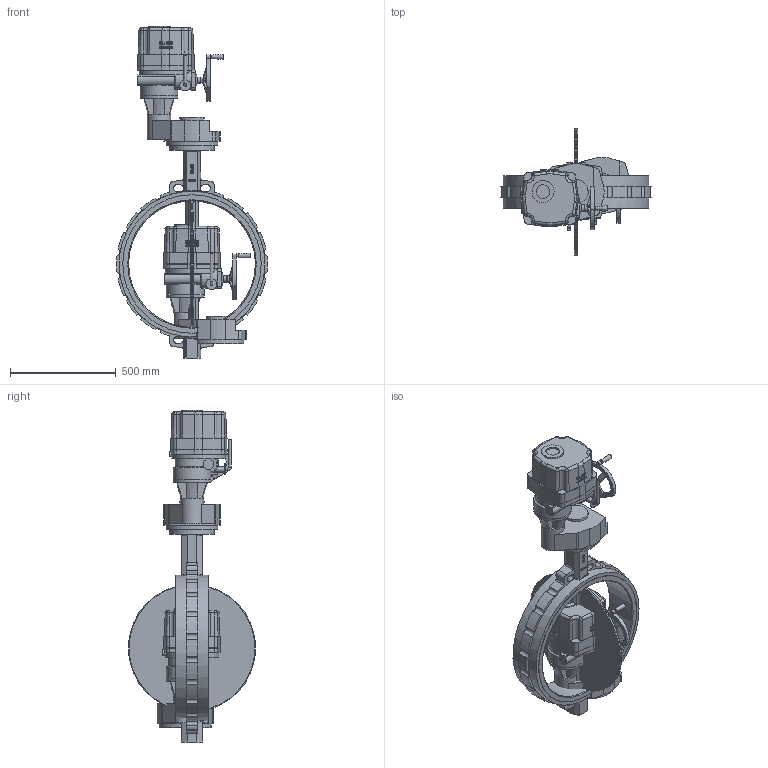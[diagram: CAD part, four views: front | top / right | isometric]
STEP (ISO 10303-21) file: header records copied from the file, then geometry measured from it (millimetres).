
FILE_DESCRIPTION( ( 'Unknown' ), '1' );
FILE_NAME( 'R:/ECCUA/ROOTSI BPS 3D vidinad/Poordklapid Wafer type/Butterfly valve(wafer) with electric actuator BPS/STEP formaat/BPS 2303600E butterfly valve DN600.stp', 'Unknown', ( 'Unknown' ), ( 'Unknown' ), 'PSStep 10.1', 'Unknown', ' ' );
FILE_SCHEMA( ( 'AUTOMOTIVE_DESIGN { 1 0 10303 214 1 1 1 1 }' ) );
Length unit declared in the file: millimetre
Products named in the file (4): Assem1; Butterfly valve wafer type DN600 BPS; BPS 80052000-3000 electric actuator DN450-600
Bounding box: 713.46 x 599.9 x 1571.5 mm (x, y, z)
Volume: 98336713.8 mm3; surface area: 5294564 mm2
Topology: 6 solids, 6 shells, 1300 faces, 3410 edges, 2212 vertices
Faces by surface type: plane 498, cylinder 412, bspline 150, cone 116, extrusion 78, torus 30, sphere 16
Full cylindrical faces by diameter (mm): 10.106 x16, 13 x4, 13.835 x16, 15 x2, 17.294 x16, 18 x10, 22 x8, 25 x4, 27 x4, 30 x4, 45 x2, 52 x2, 64 x2, 65 x2, 104 x2, 109.808 x2, 115 x2, 159 x2, 178 x4, 210 x2, 245 x2, 600 x2, 655 x4, 690 x4
Entity records: 36189 total; most frequent: CARTESIAN_POINT 16164, ORIENTED_EDGE 3136, DIRECTION 2738, EDGE_CURVE 1568, VERTEX_POINT 1076, AXIS2_PLACEMENT_3D 1047, EDGE_LOOP 826, FACE_OUTER_BOUND 719
